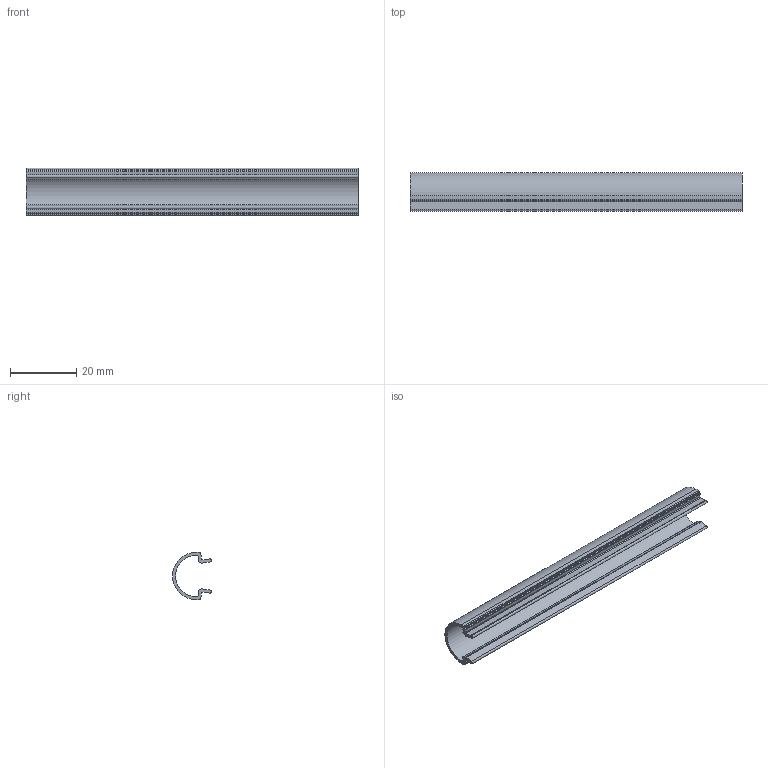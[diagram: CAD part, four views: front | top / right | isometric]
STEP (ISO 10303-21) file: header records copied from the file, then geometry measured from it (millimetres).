
FILE_DESCRIPTION(/* description */ ('Mini Cover for LED Rails Round'),/* implementation_level */ '2;1');
FILE_NAME(/* name */ 'D:\$Workingspace\Designs\Profile\137 - Profil LED nakładany mały\MOOV pliki\pliki 3ds\PA-OSMLGLAXMO-00.stp',/* time_stamp */ '2018-01-09T14:48:50+01:00',/* author */ ('tomaszw'),/* organization */ (''),/* preprocessor_version */ 'ST-DEVELOPER v16.1',/* originating_system */ 'Autodesk Inventor 2016',/* authorisation */ '');
FILE_SCHEMA (('CONFIG_CONTROL_DESIGN'));
Length unit declared in the file: millimetre
Products named in the file (1): Mini Cover for LED Rails Półkole
Bounding box: 100 x 11.69 x 14.24 mm (x, y, z)
Volume: 3076.4 mm3; surface area: 6941.2 mm2
Topology: 1 solids, 1 shells, 48 faces, 138 edges, 92 vertices
Faces by surface type: plane 26, cylinder 22
Entity records: 1610 total; most frequent: DIRECTION 280, CARTESIAN_POINT 279, ORIENTED_EDGE 276, EDGE_CURVE 138, LINE 94, VECTOR 94, AXIS2_PLACEMENT_3D 93, VERTEX_POINT 92
